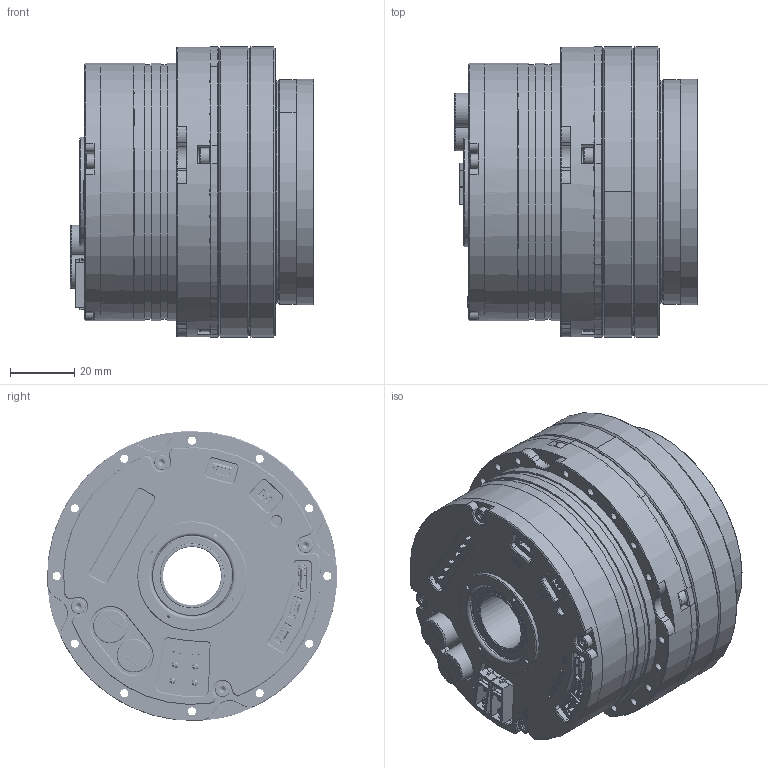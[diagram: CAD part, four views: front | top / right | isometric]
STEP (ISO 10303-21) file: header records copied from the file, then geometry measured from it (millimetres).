
FILE_DESCRIPTION( ('This file contains a STEP AP42 implementation' ,'as created by ZW3D STEP Interface translator.') ,'2;1' );
FILE_NAME( 'HJ2-202.stp' ,'25 820.152822', (''), ('ZWCAD Software Co.'), 'Version 1.0', 'ZW3D to STEP translator', '' );
FILE_SCHEMA(('AUTOMOTIVE_DESIGN { 1 0 10303 214 1 1 1 1 }'));
Length unit declared in the file: millimetre
Products named in the file (1): 0
Bounding box: 75.6 x 90 x 90 mm (x, y, z)
Volume: 364692.1 mm3; surface area: 139891.8 mm2
Topology: 93 solids, 122 shells, 6512 faces, 17353 edges, 11132 vertices
Faces by surface type: plane 4697, cylinder 863, cone 361, bspline 327, torus 196, sphere 68
Full cylindrical faces by diameter (mm): 1.6 x8, 2.5 x32, 2.7 x4, 3 x33, 3.5 x64, 4.5 x12, 4.7 x8, 6 x12, 10.1 x2, 10.5 x2, 18 x1, 20 x1, 21.168 x4, 21.39 x2, 22.282 x2, 24.718 x2, 25 x1, 25.832 x4, 27 x3, 29 x1, 34 x1, 52 x1, 54 x1, 58 x1, 68 x1, 70 x1, 76.6 x1, 77 x1, 78 x3, 79 x2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
Entity records: 212553 total; most frequent: CARTESIAN_POINT 44935, ORIENTED_EDGE 34283, DIRECTION 31226, EDGE_CURVE 17212, VECTOR 13374, LINE 13374, VERTEX_POINT 11162, AXIS2_PLACEMENT_3D 8926
